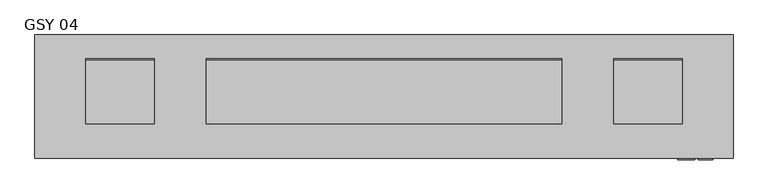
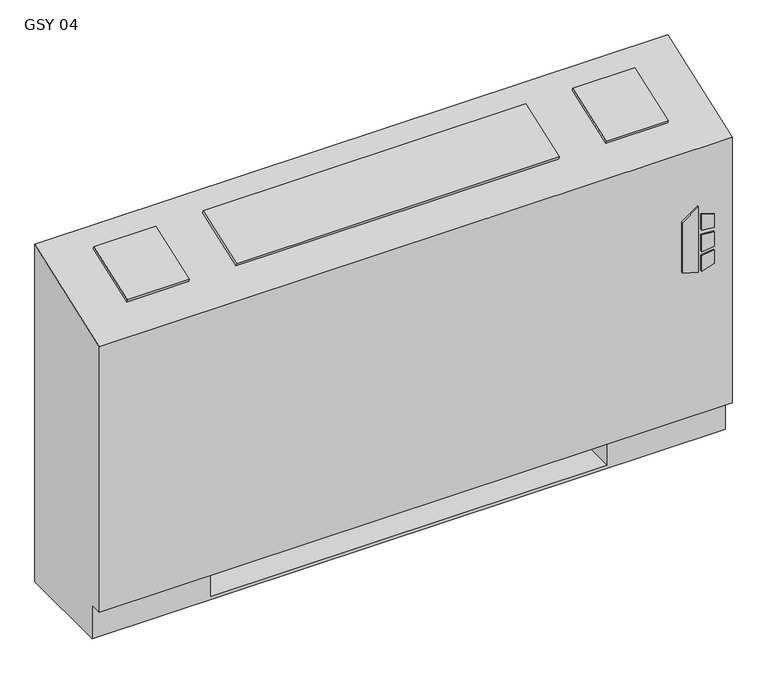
"""IFC4 building model written with IfcOpenShell, lengths in millimetres: proxy geometry, Vertical_Fan_Coil_Unit_-_GSY_-_IEC_-_2-Pipe_TS-FR_LH_2022 : GSY 04."""

from ifc_helpers import new_model, si_unit, point, frame, frame_2d, origin, place, context, project, spatial, polyline, circle_curve, trimmed, segment, composite_curve, outline, extrude, source, transform, mapped, element, save
from ifc_brep_helpers import plane_surface, revolved_surface, advanced_brep


def gsy_04_bbb608ca(model_context):
    return source(origin(), model_context, "Body", "SolidModel", [
        extrude(outline(polyline([(391.6086829, 696.9868862), (381.6606126, 729.1602728), (523.831537, 729.1602728), (500.8095309, 696.9868862), (391.6086829, 696.9868862)])), frame((0.0, 12.7, 0.0), z_axis=(0.0, 1.0, 0.0), x_axis=(0.0, 0.0, 1.0)), (0.0, 0.0, 1.0), 3.175),
        extrude(outline(polyline([(470.6079683, 735.9186058), (467.4055757, 762.0), (496.6344168, 762.0), (504.6988318, 735.9186058), (470.6079683, 735.9186058)])), frame((0.0, 12.7, 0.0), z_axis=(0.0, 1.0, 0.0), x_axis=(0.0, 0.0, 1.0)), (0.0, 0.0, 1.0), 3.175),
        extrude(outline(polyline([(418.7444414, 762.0), (415.0789404, 735.9186058), (381.6606126, 735.9186058), (390.2948498, 762.0), (418.7444414, 762.0)])), frame((0.0, 12.7, 0.0), z_axis=(0.0, 1.0, 0.0), x_axis=(0.0, 0.0, 1.0)), (0.0, 0.0, 1.0), 3.175),
        extrude(outline(polyline([(458.0596028, 762.0), (460.3414292, 735.9186058), (424.4038806, 735.9186058), (427.1451456, 762.0), (458.0596028, 762.0)])), frame((0.0, 12.7, 0.0), z_axis=(0.0, 1.0, 0.0), x_axis=(0.0, 0.0, 1.0)), (0.0, 0.0, 1.0), 3.175),
        extrude(outline(polyline([(0.0, -126.2347031), (0.0, 0.0), (127.0, 0.0), (127.0, -126.2347031), (0.0, -126.2347031)])), frame((-401.193, 200.4217127, 714.3418685), z_axis=(0.0, -0.33964446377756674, 0.9405538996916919), x_axis=(1.0, 0.0, 0.0)), (0.0, 0.0, 1.0), 6.35),
        extrude(outline(polyline([(0.0, -126.2347031), (0.0, 0.0), (660.4, 0.0), (660.4, -126.2347031), (0.0, -126.2347031)])), frame((482.6, 81.6911704, 671.4669504), z_axis=(0.0, -0.3396444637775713, 0.9405538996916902), x_axis=(-1.0, 0.0, 0.0)), (0.0, 0.0, 1.0), 6.35),
        extrude(outline(polyline([(0.0, -126.2347031), (0.0, 0.0), (127.0, 0.0), (127.0, -126.2347031), (0.0, -126.2347031)])), frame((705.993, 81.6911704, 671.4669504), z_axis=(0.0, -0.3396444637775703, 0.9405538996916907), x_axis=(-1.0, 0.0, 0.0)), (0.0, 0.0, 1.0), 6.35),
        extrude(outline(polyline([(558.8, 81.534), (558.8, 223.266), (679.45, 223.266), (679.45, 81.534), (558.8, 81.534)])), frame((0.0, 0.0, 327.025), z_axis=(0.0, 0.0, 1.0), x_axis=(1.0, 0.0, 0.0)), (0.0, 0.0, 1.0), 260.35),
        extrude(outline(composite_curve([segment(trimmed(circle_curve(frame_2d((80.645, 397.002)), 7.9375), [point((80.645, 404.9395))], [point((80.645, 389.0645))], False, "CARTESIAN"), True, "CONTINUOUS"), segment(trimmed(circle_curve(frame_2d((80.645, 397.002)), 7.9375), [point((80.645, 389.0645))], [point((80.645, 404.9395))], False, "CARTESIAN"), True, "CONTINUOUS")], self_intersect=False)), frame((-304.8, 0.0, 0.0), z_axis=(1.0, 0.0, 0.0), x_axis=(0.0, 1.0, 0.0)), (0.0, 0.0, 1.0), 50.8),
        extrude(outline(composite_curve([segment(trimmed(circle_curve(frame_2d((156.8958, 535.8892)), 7.9375), [point((156.8958, 543.8267))], [point((156.8958, 527.9517))], False, "CARTESIAN"), True, "CONTINUOUS"), segment(trimmed(circle_curve(frame_2d((156.8958, 535.8892)), 7.9375), [point((156.8958, 527.9517))], [point((156.8958, 543.8267))], False, "CARTESIAN"), True, "CONTINUOUS")], self_intersect=False)), frame((-304.8, 0.0, 0.0), z_axis=(1.0, 0.0, 0.0), x_axis=(0.0, 1.0, 0.0)), (0.0, 0.0, 1.0), 50.8),
        advanced_brep(
        [(-495.3, 244.475, 0.0), (800.1, 244.475, 0.0), (800.1, 41.275, 0.0), (-495.3, 41.275, 0.0), (-495.3, 244.475, 730.25), (800.1, 244.475, 730.25), (558.8, 244.475, 73.025), (787.4, 244.475, 73.025), (787.4, 244.475, 654.05), (558.8, 244.475, 654.05), (558.8, 244.475, 414.8650565), (587.375, 244.475, 414.8650565), (587.375, 244.475, 385.2349435), (558.8, 244.475, 385.2349435), (558.8, 244.475, 287.3375), (587.375, 244.475, 287.3375), (587.375, 244.475, 258.7625), (558.8, 244.475, 258.7625), (558.8, 244.475, 141.2875), (587.375, 244.475, 141.2875), (587.375, 244.475, 112.7125), (558.8, 244.475, 112.7125), (-254.0, 244.475, 654.05), (-482.6, 244.475, 654.05), (-482.6, 244.475, 73.025), (-254.0, 244.475, 73.025), (-254.0, 244.475, 112.7125), (-282.575, 244.475, 112.7125), (-282.575, 244.475, 141.2875), (-254.0, 244.475, 141.2875), (-254.0, 244.475, 258.7625), (-282.575, 244.475, 258.7625), (-282.575, 244.475, 287.3375), (-254.0, 244.475, 287.3375), (-254.0, 244.475, 385.2349435), (-282.575, 244.475, 385.2349435), (-282.575, 244.475, 414.8650565), (-254.0, 244.475, 414.8650565), (577.0626, 244.475, 127.0), (565.9374, 244.475, 127.0), (577.0626, 244.475, 400.05), (565.9374, 244.475, 400.05), (577.0626, 244.475, 273.05), (565.9374, 244.475, 273.05), (-261.1374, 244.475, 127.0), (-272.2626, 244.475, 127.0), (-261.1374, 244.475, 273.05), (-272.2626, 244.475, 273.05), (-261.1374, 244.475, 400.05), (-272.2626, 244.475, 400.05), (-495.3, 41.275, 73.025), (-495.3, 15.875, 73.025), (-495.3, 15.875, 647.7), (800.1, 15.875, 73.025), (800.1, 15.875, 647.7), (800.1, 41.275, 73.025), (-254.0, 41.275, 73.025), (-254.0, 225.425, 73.025), (558.8, 225.425, 73.025), (558.8, 41.275, 73.025), (558.8, 41.275, 6.35), (-254.0, 41.275, 6.35), (558.8, 41.275, 654.05), (787.4, 41.275, 654.05), (787.4, 41.275, 73.025), (558.8, 41.275, 73.025), (-254.0, 41.275, 654.05), (-254.0, 41.275, 73.025), (-482.6, 41.275, 73.025), (-482.6, 41.275, 654.05), (558.8, 225.425, 73.025), (558.8, 238.125, 112.7125), (558.8, 238.125, 141.2875), (558.8, 238.125, 258.7625), (558.8, 238.125, 287.3375), (558.8, 238.125, 385.2349435), (558.8, 238.125, 414.8650565), (-254.0, 225.425, 73.025), (-254.0, 238.125, 414.8650565), (-254.0, 238.125, 385.2349435), (-254.0, 238.125, 287.3375), (-254.0, 238.125, 258.7625), (-254.0, 238.125, 141.2875), (-254.0, 238.125, 112.7125), (-254.0, 225.425, 6.35), (558.8, 225.425, 6.35), (587.375, 238.125, 112.7125), (587.375, 238.125, 141.2875), (565.9374, 238.125, 127.0), (577.0626, 238.125, 127.0), (587.375, 238.125, 258.7625), (587.375, 238.125, 287.3375), (565.9374, 238.125, 273.05), (577.0626, 238.125, 273.05), (587.375, 238.125, 385.2349435), (587.375, 238.125, 414.8650565), (565.9374, 238.125, 400.05), (577.0626, 238.125, 400.05), (-282.575, 238.125, 141.2875), (-282.575, 238.125, 112.7125), (-272.2626, 238.125, 127.0), (-261.1374, 238.125, 127.0), (-282.575, 238.125, 287.3375), (-282.575, 238.125, 258.7625), (-272.2626, 238.125, 273.05), (-261.1374, 238.125, 273.05), (-282.575, 238.125, 414.8650565), (-282.575, 238.125, 385.2349435), (-272.2626, 238.125, 400.05), (-261.1374, 238.125, 400.05)],
        [
            (0, 1),
            (1, 2),
            (2, 3),
            (3, 0),
            (0, 4),
            (4, 5),
            (5, 1),
            (6, 7),
            (7, 8),
            (8, 9),
            (9, 10),
            (10, 11),
            (11, 12),
            (12, 13),
            (13, 14),
            (14, 15),
            (15, 16),
            (16, 17),
            (17, 18),
            (18, 19),
            (19, 20),
            (20, 21),
            (21, 6),
            (22, 23),
            (23, 24),
            (24, 25),
            (25, 26),
            (26, 27),
            (27, 28),
            (28, 29),
            (29, 30),
            (30, 31),
            (31, 32),
            (32, 33),
            (33, 34),
            (34, 35),
            (35, 36),
            (36, 37),
            (37, 22),
            (38, 39, circle_curve(frame((571.5, 244.475, 127.0), z_axis=(0.0, -1.0, 0.0), x_axis=(-1.0, 0.0, 0.0)), 5.5626)),
            (39, 38, circle_curve(frame((571.5, 244.475, 127.0), z_axis=(0.0, -1.0, 0.0), x_axis=(-1.0, 0.0, 0.0)), 5.5626)),
            (40, 41, circle_curve(frame((571.5, 244.475, 400.05), z_axis=(0.0, -1.0, 0.0), x_axis=(-1.0, 0.0, 0.0)), 5.5626)),
            (41, 40, circle_curve(frame((571.5, 244.475, 400.05), z_axis=(0.0, -1.0, 0.0), x_axis=(-1.0, 0.0, 0.0)), 5.5626)),
            (42, 43, circle_curve(frame((571.5, 244.475, 273.05), z_axis=(0.0, -1.0, 0.0), x_axis=(-1.0, 0.0, 0.0)), 5.5626)),
            (43, 42, circle_curve(frame((571.5, 244.475, 273.05), z_axis=(0.0, -1.0, 0.0), x_axis=(-1.0, 0.0, 0.0)), 5.5626)),
            (44, 45, circle_curve(frame((-266.7, 244.475, 127.0), z_axis=(0.0, -1.0, 0.0), x_axis=(-1.0, 0.0, 0.0)), 5.5626)),
            (45, 44, circle_curve(frame((-266.7, 244.475, 127.0), z_axis=(0.0, -1.0, 0.0), x_axis=(-1.0, 0.0, 0.0)), 5.5626)),
            (46, 47, circle_curve(frame((-266.7, 244.475, 273.05), z_axis=(0.0, -1.0, 0.0), x_axis=(-1.0, 0.0, 0.0)), 5.5626)),
            (47, 46, circle_curve(frame((-266.7, 244.475, 273.05), z_axis=(0.0, -1.0, 0.0), x_axis=(-1.0, 0.0, 0.0)), 5.5626)),
            (48, 49, circle_curve(frame((-266.7, 244.475, 400.05), z_axis=(0.0, -1.0, 0.0), x_axis=(-1.0, 0.0, 0.0)), 5.5626)),
            (49, 48, circle_curve(frame((-266.7, 244.475, 400.05), z_axis=(0.0, -1.0, 0.0), x_axis=(-1.0, 0.0, 0.0)), 5.5626)),
            (3, 50),
            (50, 51),
            (51, 52),
            (52, 4),
            (51, 53),
            (53, 54),
            (54, 52),
            (5, 54),
            (53, 55),
            (55, 2),
            (50, 56),
            (56, 57),
            (57, 58),
            (58, 59),
            (59, 55),
            (59, 60),
            (60, 61),
            (61, 56),
            (62, 63),
            (63, 64),
            (64, 65),
            (65, 62),
            (66, 67),
            (67, 68),
            (68, 69),
            (69, 66),
            (65, 70),
            (70, 6),
            (21, 71),
            (71, 72),
            (72, 18),
            (17, 73),
            (73, 74),
            (74, 14),
            (13, 75),
            (75, 76),
            (76, 10),
            (9, 62),
            (64, 7),
            (63, 8),
            (69, 23),
            (22, 66),
            (68, 24),
            (67, 77),
            (77, 25),
            (37, 78),
            (78, 79),
            (79, 34),
            (33, 80),
            (80, 81),
            (81, 30),
            (29, 82),
            (82, 83),
            (83, 26),
            (57, 84),
            (84, 85),
            (85, 58),
            (85, 60),
            (84, 61),
            (71, 86),
            (86, 87),
            (87, 72),
            (88, 89, circle_curve(frame((571.5, 238.125, 127.0), z_axis=(0.0, 1.0, 0.0), x_axis=(-1.0, 0.0, 0.0)), 5.5626)),
            (89, 88, circle_curve(frame((571.5, 238.125, 127.0), z_axis=(0.0, 1.0, 0.0), x_axis=(-1.0, 0.0, 0.0)), 5.5626)),
            (73, 90),
            (90, 91),
            (91, 74),
            (92, 93, circle_curve(frame((571.5, 238.125, 273.05), z_axis=(0.0, 1.0, 0.0), x_axis=(-1.0, 0.0, 0.0)), 5.5626)),
            (93, 92, circle_curve(frame((571.5, 238.125, 273.05), z_axis=(0.0, 1.0, 0.0), x_axis=(-1.0, 0.0, 0.0)), 5.5626)),
            (75, 94),
            (94, 95),
            (95, 76),
            (96, 97, circle_curve(frame((571.5, 238.125, 400.05), z_axis=(0.0, 1.0, 0.0), x_axis=(-1.0, 0.0, 0.0)), 5.5626)),
            (97, 96, circle_curve(frame((571.5, 238.125, 400.05), z_axis=(0.0, 1.0, 0.0), x_axis=(-1.0, 0.0, 0.0)), 5.5626)),
            (98, 99),
            (99, 83),
            (82, 98),
            (100, 101, circle_curve(frame((-266.7, 238.125, 127.0), z_axis=(0.0, 1.0, 0.0), x_axis=(-1.0, 0.0, 0.0)), 5.5626)),
            (101, 100, circle_curve(frame((-266.7, 238.125, 127.0), z_axis=(0.0, 1.0, 0.0), x_axis=(-1.0, 0.0, 0.0)), 5.5626)),
            (102, 103),
            (103, 81),
            (80, 102),
            (104, 105, circle_curve(frame((-266.7, 238.125, 273.05), z_axis=(0.0, 1.0, 0.0), x_axis=(-1.0, 0.0, 0.0)), 5.5626)),
            (105, 104, circle_curve(frame((-266.7, 238.125, 273.05), z_axis=(0.0, 1.0, 0.0), x_axis=(-1.0, 0.0, 0.0)), 5.5626)),
            (106, 107),
            (107, 79),
            (78, 106),
            (108, 109, circle_curve(frame((-266.7, 238.125, 400.05), z_axis=(0.0, 1.0, 0.0), x_axis=(-1.0, 0.0, 0.0)), 5.5626)),
            (109, 108, circle_curve(frame((-266.7, 238.125, 400.05), z_axis=(0.0, 1.0, 0.0), x_axis=(-1.0, 0.0, 0.0)), 5.5626)),
            (87, 19),
            (86, 20),
            (91, 15),
            (90, 16),
            (95, 11),
            (94, 12),
            (28, 98),
            (99, 27),
            (32, 102),
            (103, 31),
            (36, 106),
            (107, 35),
            (88, 39),
            (38, 89),
            (96, 41),
            (40, 97),
            (92, 43),
            (42, 93),
            (100, 45),
            (44, 101),
            (104, 47),
            (46, 105),
            (108, 49),
            (48, 109),
        ],
        [
            plane_surface(frame((-495.3, 244.475, 0.0), z_axis=(0.0, 0.0, -1.0), x_axis=(1.0, 0.0, 0.0))),
            plane_surface(frame((800.1, 244.475, 730.25), z_axis=(0.0, 1.0, 0.0), x_axis=(0.0, 0.0, -1.0))),
            plane_surface(frame((-495.3, 244.475, 730.25), z_axis=(-1.0, 0.0, 0.0), x_axis=(0.0, 0.0, -1.0))),
            plane_surface(frame((-495.3, 15.875, 730.25), z_axis=(0.0, -1.0, 0.0), x_axis=(0.0, 0.0, -1.0))),
            plane_surface(frame((800.1, 15.875, 730.25), z_axis=(1.0, 0.0, 0.0), x_axis=(0.0, 0.0, -1.0))),
            plane_surface(frame((-495.3, 15.875, 73.025), z_axis=(0.0, 0.0, -1.0), x_axis=(1.0, 0.0, 0.0))),
            plane_surface(frame((-495.3, 41.275, 73.025), z_axis=(0.0, -1.0, 0.0), x_axis=(1.0, 0.0, 0.0))),
            plane_surface(frame((558.8, 41.275, 654.05), z_axis=(0.0, 1.0, 0.0), x_axis=(0.0, 0.0, -1.0))),
            plane_surface(frame((558.8, 41.275, 654.05), z_axis=(1.0, 0.0, 0.0), x_axis=(0.0, 1.0, 0.0))),
            plane_surface(frame((558.8, 41.275, 73.025), z_axis=(0.0, 0.0, 1.0), x_axis=(0.0, 1.0, 0.0))),
            plane_surface(frame((787.4, 41.275, 73.025), z_axis=(-1.0, 0.0, 0.0), x_axis=(0.0, 1.0, 0.0))),
            plane_surface(frame((787.4, 41.275, 654.05), z_axis=(0.0, 0.0, -1.0), x_axis=(0.0, 1.0, 0.0))),
            plane_surface(frame((-254.0, 41.275, 654.05), z_axis=(0.0, 0.0, -1.0), x_axis=(0.0, 1.0, 0.0))),
            plane_surface(frame((-482.6, 41.275, 654.05), z_axis=(1.0, 0.0, 0.0), x_axis=(0.0, 1.0, 0.0))),
            plane_surface(frame((-482.6, 41.275, 73.025), z_axis=(0.0, 0.0, 1.0), x_axis=(0.0, 1.0, 0.0))),
            plane_surface(frame((-254.0, 41.275, 73.025), z_axis=(-1.0, 0.0, 0.0), x_axis=(0.0, 1.0, 0.0))),
            plane_surface(frame((558.8, 225.425, 73.025), z_axis=(0.0, -1.0, 0.0), x_axis=(0.0, 0.0, -1.0))),
            plane_surface(frame((558.8, 225.425, 73.025), z_axis=(-1.0, 0.0, 0.0), x_axis=(0.0, -1.0, 0.0))),
            plane_surface(frame((558.8, 225.425, 6.35), z_axis=(0.0, 0.0, 1.0), x_axis=(0.0, -1.0, 0.0))),
            plane_surface(frame((-254.0, 225.425, 6.35), z_axis=(1.0, 0.0, 0.0), x_axis=(0.0, -1.0, 0.0))),
            plane_surface(frame((587.375, 238.125, 141.2875), z_axis=(0.0, -1.0, 0.0), x_axis=(-1.0, 0.0, 0.0))),
            plane_surface(frame((558.8, 244.475, 141.2875), z_axis=(0.0, 0.0, 1.0), x_axis=(0.0, -1.0, 0.0))),
            plane_surface(frame((587.375, 244.475, 141.2875), z_axis=(1.0, 0.0, 0.0), x_axis=(0.0, -1.0, 0.0))),
            plane_surface(frame((587.375, 244.475, 112.7125), z_axis=(0.0, 0.0, -1.0), x_axis=(0.0, -1.0, 0.0))),
            plane_surface(frame((558.8, 244.475, 287.3375), z_axis=(0.0, 0.0, 1.0), x_axis=(0.0, -1.0, 0.0))),
            plane_surface(frame((587.375, 244.475, 287.3375), z_axis=(1.0, 0.0, 0.0), x_axis=(0.0, -1.0, 0.0))),
            plane_surface(frame((587.375, 244.475, 258.7625), z_axis=(0.0, 0.0, -1.0), x_axis=(0.0, -1.0, 0.0))),
            plane_surface(frame((558.8, 244.475, 414.8650565), z_axis=(0.0, 0.0, 1.0), x_axis=(0.0, -1.0, 0.0))),
            plane_surface(frame((587.375, 244.475, 414.8650565), z_axis=(1.0, 0.0, 0.0), x_axis=(0.0, -1.0, 0.0))),
            plane_surface(frame((587.375, 244.475, 385.2349435), z_axis=(0.0, 0.0, -1.0), x_axis=(0.0, -1.0, 0.0))),
            plane_surface(frame((-282.575, 244.475, 141.2875), z_axis=(0.0, 0.0, 1.0), x_axis=(0.0, -1.0, 0.0))),
            plane_surface(frame((-254.0, 244.475, 112.7125), z_axis=(0.0, 0.0, -1.0), x_axis=(0.0, -1.0, 0.0))),
            plane_surface(frame((-282.575, 244.475, 112.7125), z_axis=(-1.0, 0.0, 0.0), x_axis=(0.0, -1.0, 0.0))),
            plane_surface(frame((-282.575, 244.475, 287.3375), z_axis=(0.0, 0.0, 1.0), x_axis=(0.0, -1.0, 0.0))),
            plane_surface(frame((-254.0, 244.475, 258.7625), z_axis=(0.0, 0.0, -1.0), x_axis=(0.0, -1.0, 0.0))),
            plane_surface(frame((-282.575, 244.475, 258.7625), z_axis=(-1.0, 0.0, 0.0), x_axis=(0.0, -1.0, 0.0))),
            plane_surface(frame((-282.575, 244.475, 414.8650565), z_axis=(0.0, 0.0, 1.0), x_axis=(0.0, -1.0, 0.0))),
            plane_surface(frame((-254.0, 244.475, 385.2349435), z_axis=(0.0, 0.0, -1.0), x_axis=(0.0, -1.0, 0.0))),
            plane_surface(frame((-282.575, 244.475, 385.2349435), z_axis=(-1.0, 0.0, 0.0), x_axis=(0.0, -1.0, 0.0))),
            revolved_surface(polyline([(565.9374, 238.125, 127.0), (565.9374, 244.475, 127.0)]), (571.5, 244.475, 127.0), (0.0, -1.0, 0.0)),
            revolved_surface(polyline([(565.9374, 238.125, 400.05), (565.9374, 244.475, 400.05)]), (571.5, 244.475, 400.05), (0.0, -1.0, 0.0)),
            revolved_surface(polyline([(565.9374, 238.125, 273.05), (565.9374, 244.475, 273.05)]), (571.5, 244.475, 273.05), (0.0, -1.0, 0.0)),
            revolved_surface(polyline([(-272.26259999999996, 238.125, 127.0), (-272.26259999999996, 244.475, 127.0)]), (-266.7, 244.475, 127.0), (0.0, -1.0, 0.0)),
            revolved_surface(polyline([(-272.26259999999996, 238.125, 273.05), (-272.26259999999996, 244.475, 273.05)]), (-266.7, 244.475, 273.05), (0.0, -1.0, 0.0)),
            revolved_surface(polyline([(-272.26259999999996, 238.125, 400.05), (-272.26259999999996, 244.475, 400.05)]), (-266.7, 244.475, 400.05), (0.0, -1.0, 0.0)),
            plane_surface(frame((-495.3, 244.475, 730.25), z_axis=(0.0, -0.33964446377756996, 0.9405538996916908), x_axis=(1.0, 0.0, 0.0))),
        ],
        [
            (0, [[1, 2, 3, 4]]),
            (1, [[-1, 5, 6, 7], [8, 9, 10, 11, 12, 13, 14, 15, 16, 17, 18, 19, 20, 21, 22, 23], [24, 25, 26, 27, 28, 29, 30, 31, 32, 33, 34, 35, 36, 37, 38, 39], [40, 41], [42, 43], [44, 45], [46, 47], [48, 49], [50, 51]]),
            (2, [[-5, -4, 52, 53, 54, 55]]),
            (3, [[56, 57, 58, -54]]),
            (4, [[-7, 59, -57, 60, 61, -2]]),
            (5, [[-53, 62, 63, 64, 65, 66, -60, -56]]),
            (6, [[-3, -61, -66, 67, 68, 69, -62, -52]]),
            (7, [[70, 71, 72, 73]]),
            (7, [[74, 75, 76, 77]]),
            (8, [[-73, 78, 79, -23, 80, 81, 82, -19, 83, 84, 85, -15, 86, 87, 88, -11, 89]]),
            (9, [[-72, 90, -8, -79, -78]]),
            (10, [[-71, 91, -9, -90]]),
            (11, [[-70, -89, -10, -91]]),
            (12, [[-77, 92, -24, 93]]),
            (13, [[-76, 94, -25, -92]]),
            (14, [[-75, 95, 96, -26, -94]]),
            (15, [[-74, -93, -39, 97, 98, 99, -35, 100, 101, 102, -31, 103, 104, 105, -27, -96, -95]]),
            (16, [[-64, 106, 107, 108]]),
            (17, [[-108, 109, -67, -65]]),
            (18, [[-107, 110, -68, -109]]),
            (19, [[-106, -63, -69, -110]]),
            (20, [[111, 112, 113, -81], [114, 115]]),
            (20, [[116, 117, 118, -84], [119, 120]]),
            (20, [[121, 122, 123, -87], [124, 125]]),
            (20, [[126, 127, -104, 128], [129, 130]]),
            (20, [[131, 132, -101, 133], [134, 135]]),
            (20, [[136, 137, -98, 138], [139, 140]]),
            (21, [[-113, 141, -20, -82]]),
            (22, [[-112, 142, -21, -141]]),
            (23, [[-111, -80, -22, -142]]),
            (24, [[-118, 143, -16, -85]]),
            (25, [[-117, 144, -17, -143]]),
            (26, [[-116, -83, -18, -144]]),
            (27, [[-123, 145, -12, -88]]),
            (28, [[-122, 146, -13, -145]]),
            (29, [[-121, -86, -14, -146]]),
            (30, [[-128, -103, -30, 147]]),
            (31, [[-127, 148, -28, -105]]),
            (32, [[-126, -147, -29, -148]]),
            (33, [[-133, -100, -34, 149]]),
            (34, [[-132, 150, -32, -102]]),
            (35, [[-131, -149, -33, -150]]),
            (36, [[-138, -97, -38, 151]]),
            (37, [[-137, 152, -36, -99]]),
            (38, [[-136, -151, -37, -152]]),
            (39, [[153, -40, 154, -114]]),
            (39, [[-153, -115, -154, -41]]),
            (40, [[155, -42, 156, -124]]),
            (40, [[-155, -125, -156, -43]]),
            (41, [[157, -44, 158, -119]]),
            (41, [[-157, -120, -158, -45]]),
            (42, [[159, -46, 160, -129]]),
            (42, [[-159, -130, -160, -47]]),
            (43, [[161, -48, 162, -134]]),
            (43, [[-161, -135, -162, -49]]),
            (44, [[163, -50, 164, -139]]),
            (44, [[-163, -140, -164, -51]]),
            (45, [[-6, -55, -58, -59]]),
        ],
    ),
    ])


if __name__ == "__main__":
    model = new_model("IFC4")
    model_context = context("Model", 3, world=origin())
    ifc_project = project(units=[si_unit("LENGTHUNIT", "METRE", prefix="MILLI")], contexts=[model_context])
    site = spatial("IfcSite", under=ifc_project)
    building = spatial("IfcBuilding", under=site)
    placement = place(None, origin())
    gsy_04_shape = gsy_04_bbb608ca(model_context)
    element("IfcBuildingElementProxy", 1, Name="Vertical_Fan_Coil_Unit_-_GSY_-_IEC_-_2-Pipe_TS-FR_LH_2022 : GSY 04", ObjectType="Vertical_Fan_Coil_Unit_-_GSY_-_IEC_-_2-Pipe_TS-FR_LH_2022 : GSY 04", at=placement, inside=building, context=model_context, shape_type="MappedRepresentation", body=[
        mapped(gsy_04_shape, transform((0.0, 0.0, 0.0), x_axis=(1.0, 0.0, 0.0), y_axis=(0.0, 1.0, 0.0), z_axis=(0.0, 0.0, 1.0))),
    ])
    save(model, "model.ifc")
